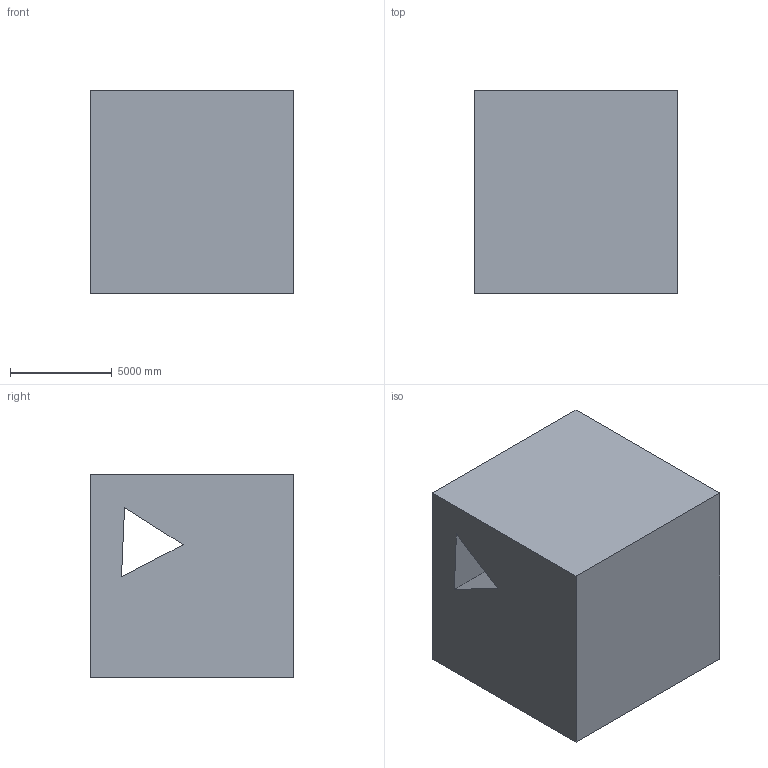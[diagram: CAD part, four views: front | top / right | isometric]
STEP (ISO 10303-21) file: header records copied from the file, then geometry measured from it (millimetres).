
FILE_DESCRIPTION (( 'STEP AP203' ), '1' );
FILE_NAME ('85.STEP', '2022-07-28T13:34:43', ( 'user' ), ( '' ), 'SwSTEP 2.0', 'SolidWorks 2021', '' );
FILE_SCHEMA (( 'CONFIG_CONTROL_DESIGN' ));
Length unit declared in the file: centimetre
Products named in the file (1): 85
Bounding box: 10000 x 10000 x 10000 mm (x, y, z)
Volume: 936697713315.1 mm3; surface area: 742716901.3 mm2
Topology: 1 solids, 1 shells, 15 faces, 33 edges, 22 vertices
Faces by surface type: plane 11, cylinder 4
Entity records: 496 total; most frequent: DIRECTION 73, CARTESIAN_POINT 71, ORIENTED_EDGE 66, EDGE_CURVE 33, VECTOR 25, LINE 25, AXIS2_PLACEMENT_3D 24, VERTEX_POINT 22
